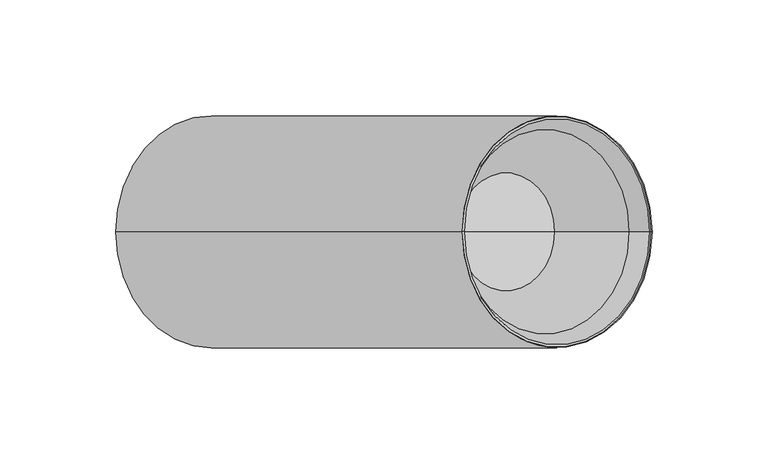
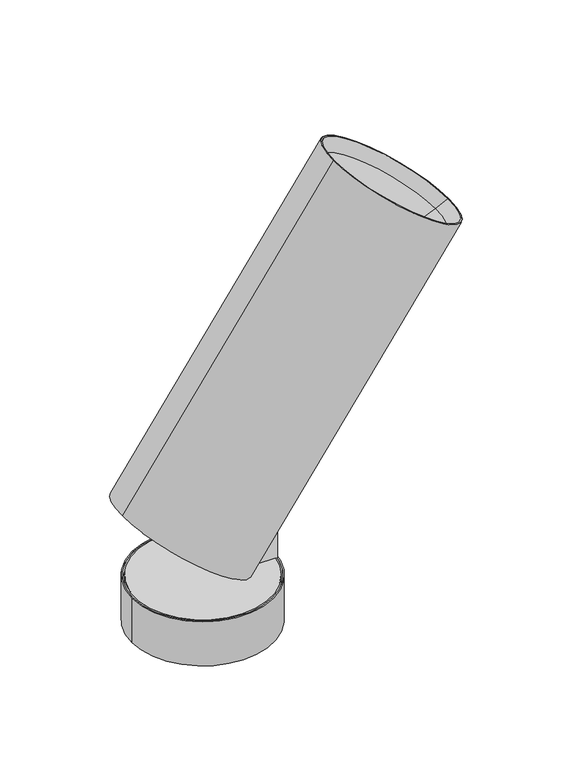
"""IFC4 building model written with IfcOpenShell, lengths in millimetres: light fixture geometry, PIPES C S : 1700 21W-830 28°."""

from ifc_helpers import new_model, si_unit, point, frame, frame_2d, origin, origin_with_axes, origin_2d, place, context, project, spatial, polyline, circle_curve, trimmed, segment, composite_curve, outline, extrude, source, transform, mapped, element, save
from ifc_brep_helpers import plane_surface, cylinder_surface, revolved_surface, advanced_brep


def light_fixture_41abf64e(model_context):
    return source(origin(), model_context, "Body", "SolidModel", [
        advanced_brep(
        [(38.1178204, 8.0, 92.7464369), (15.1747629, 8.0, 59.9803551), (29.3695524, 8.0, 50.0410565), (23.0602116, 8.0, 41.030384), (24.7208068, 8.0, 39.8676227), (53.973205, 8.0, 81.644377), (38.1178204, -8.0, 92.7464369), (53.973205, -8.0, 81.644377), (24.7208068, -8.0, 39.8676227), (23.0602116, -8.0, 41.030384), (29.3695524, -8.0, 50.0410565), (15.1747629, -8.0, 59.9803551), (15.1747629, 0.0, 59.9803551), (54.5008612, 0.0, 81.2749081), (92.463132, 0.0, 309.835329), (174.3783364, 0.0, 252.4776854), (164.8478284, 0.0, 247.8194807), (91.3454771, 0.0, 299.2863811), (-56.6667414, 0.0, 96.8557975), (-55.0284374, 0.0, 95.7086446), (-48.7190966, 0.0, 104.7193171), (-9.3997984, 0.0, 77.1876482), (89.6265474, 0.0, 263.8214878), (132.1096385, 0.0, 234.0745072), (110.8680929, 0.0, 248.9479975)],
        [
            (0, 1),
            (1, 2),
            (2, 3),
            (3, 4),
            (4, 5),
            (5, 0),
            (6, 7),
            (7, 8),
            (8, 9),
            (9, 10),
            (10, 11),
            (11, 6),
            (0, 6),
            (11, 12),
            (12, 1),
            (5, 13, circle_curve(frame((13.543259, 0.0, 109.9537299), z_axis=(-0.5735764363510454, 0.0, -0.8191520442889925), x_axis=(0.8191520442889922, 0.0, -0.5735764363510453)), 50.0)),
            (13, 7, circle_curve(frame((13.543259, 0.0, 109.9537299), z_axis=(-0.5735764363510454, 0.0, -0.8191520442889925), x_axis=(0.8191520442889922, 0.0, -0.5735764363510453)), 50.0)),
            (14, 15, circle_curve(frame((133.4207342, 0.0, 281.1565072), z_axis=(0.5735764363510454, 0.0, 0.8191520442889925), x_axis=(0.8191520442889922, 0.0, -0.5735764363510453)), 50.0)),
            (15, 16),
            (16, 17, circle_curve(frame((128.0966528, 0.0, 273.5529309), z_axis=(-0.5735764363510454, 0.0, -0.8191520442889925), x_axis=(0.8191520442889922, 0.0, -0.5735764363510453)), 44.8649013)),
            (17, 14),
            (15, 14, circle_curve(frame((133.4207342, 0.0, 281.1565072), z_axis=(0.5735764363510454, 0.0, 0.8191520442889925), x_axis=(0.8191520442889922, 0.0, -0.5735764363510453)), 50.0)),
            (17, 16, circle_curve(frame((128.0966528, 0.0, 273.5529309), z_axis=(-0.5735764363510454, 0.0, -0.8191520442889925), x_axis=(0.8191520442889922, 0.0, -0.5735764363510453)), 44.8649013)),
            (14, 18),
            (18, 8, circle_curve(frame((-15.7091392, 0.0, 68.1769757), z_axis=(0.5735764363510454, 0.0, 0.8191520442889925), x_axis=(0.8191520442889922, 0.0, -0.5735764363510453)), 50.0)),
            (13, 15),
            (4, 18, circle_curve(frame((-15.7091392, 0.0, 68.1769757), z_axis=(0.5735764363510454, 0.0, 0.8191520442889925), x_axis=(0.8191520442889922, 0.0, -0.5735764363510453)), 50.0)),
            (18, 19),
            (19, 9, circle_curve(frame((-15.7091392, 0.0, 68.1769757), z_axis=(0.5735764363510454, 0.0, 0.8191520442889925), x_axis=(0.8191520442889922, 0.0, -0.5735764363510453)), 48.0)),
            (3, 19, circle_curve(frame((-15.7091392, 0.0, 68.1769757), z_axis=(0.5735764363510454, 0.0, 0.8191520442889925), x_axis=(0.8191520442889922, 0.0, -0.5735764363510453)), 48.0)),
            (19, 20),
            (20, 10, circle_curve(frame((-9.3997984, 0.0, 77.1876482), z_axis=(0.5735764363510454, 0.0, 0.8191520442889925), x_axis=(0.8191520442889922, 0.0, -0.5735764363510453)), 48.0)),
            (2, 20, circle_curve(frame((-9.3997984, 0.0, 77.1876482), z_axis=(0.5735764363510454, 0.0, 0.8191520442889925), x_axis=(0.8191520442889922, 0.0, -0.5735764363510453)), 48.0)),
            (20, 21),
            (21, 12),
            (22, 23, circle_curve(frame((110.8680929, 0.0, 248.9479975), z_axis=(0.5735764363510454, 0.0, 0.8191520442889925), x_axis=(0.8191520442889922, 0.0, -0.5735764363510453)), 25.931139)),
            (23, 24),
            (24, 22),
            (23, 22, circle_curve(frame((110.8680929, 0.0, 248.9479975), z_axis=(0.5735764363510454, 0.0, 0.8191520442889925), x_axis=(0.8191520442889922, 0.0, -0.5735764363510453)), 25.931139)),
            (16, 23),
            (22, 17),
        ],
        [
            plane_surface(frame((38.1178204, 8.0, 92.7464369), z_axis=(0.0, -1.0000000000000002, 0.0), x_axis=(0.5735764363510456, 0.0, 0.8191520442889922))),
            plane_surface(frame((38.1178204, -8.0, 92.7464369), z_axis=(0.0, 1.0000000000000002, 0.0), x_axis=(-0.5735764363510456, 0.0, -0.8191520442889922))),
            plane_surface(frame((38.1178204, -8.0, 92.7464369), z_axis=(0.8191520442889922, 0.0, -0.5735764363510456), x_axis=(0.0, 1.0, 0.0))),
            plane_surface(frame((58.5966215, -8.0, 78.4070259), z_axis=(-0.573576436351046, 0.0, -0.8191520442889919), x_axis=(0.0, 1.0, 0.0))),
            revolved_surface(polyline([(164.8478284, 0.0, 247.8194807), (174.3783364, 0.0, 252.4776854)]), (-18.8364965, 0.0, 63.7106467), (-0.5735764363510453, 0.0, -0.8191520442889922)),
            cylinder_surface(frame((-18.8364965, 0.0, 63.7106467), z_axis=(-0.5735764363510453, 0.0, -0.8191520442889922), x_axis=(0.8191520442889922, 0.0, -0.5735764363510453)), 50.0),
            plane_surface(frame((-15.7091392, 0.0, 68.1769757), z_axis=(-0.5735764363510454, 0.0, -0.8191520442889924), x_axis=(0.8191520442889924, 0.0, -0.5735764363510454))),
            revolved_surface(polyline([(23.610158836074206, 0.0, 40.645306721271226), (29.91949968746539, 0.0, 49.65597928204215)]), (-18.8364965, 0.0, 63.7106467), (-0.5735764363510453, 0.0, -0.8191520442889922)),
            plane_surface(frame((-9.3997984, 0.0, 77.1876482), z_axis=(-0.5735764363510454, 0.0, -0.8191520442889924), x_axis=(0.8191520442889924, 0.0, -0.5735764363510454))),
            plane_surface(frame((110.8680929, 0.0, 248.9479975), z_axis=(0.5735764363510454, 0.0, 0.8191520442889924), x_axis=(0.8191520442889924, 0.0, -0.5735764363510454))),
            revolved_surface(polyline([(132.1096385, 0.0, 234.0745072), (164.8478284, 0.0, 247.8194807)]), (-18.8364965, 0.0, 63.7106467), (-0.5735764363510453, 0.0, -0.8191520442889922)),
        ],
        [
            (0, [[1, 2, 3, 4, 5, 6]]),
            (1, [[7, 8, 9, 10, 11, 12]]),
            (2, [[13, -12, 14, 15, -1]]),
            (3, [[-13, -6, 16, 17, -7]]),
            (4, [[18, 19, 20, 21]]),
            (4, [[-19, 22, -21, 23]]),
            (5, [[-18, 24, 25, -8, -17, 26]]),
            (5, [[-22, -26, -16, -5, 27, -24]]),
            (6, [[28, 29, -9, -25]]),
            (6, [[-28, -27, -4, 30]]),
            (7, [[31, 32, -10, -29]]),
            (7, [[-31, -30, -3, 33]]),
            (8, [[34, 35, -14, -11, -32]]),
            (8, [[-34, -33, -2, -15, -35]]),
            (9, [[36, 37, 38]]),
            (9, [[-37, 39, -38]]),
            (10, [[-20, 40, -36, 41]]),
            (10, [[-23, -41, -39, -40]]),
        ],
    ),
        advanced_brep(
        [(10.012575, 8.0, 52.6079867), (8.8654221, 8.0, 50.9696826), (21.3965718, 8.0, 42.1952771), (22.5437247, 8.0, 43.8335812), (8.8654221, -8.0, 50.9696826), (10.012575, -8.0, 52.6079867), (22.5437247, -8.0, 43.8335812), (21.3965718, -8.0, 42.1952771), (10.012575, 0.0, 52.6079867), (8.8654221, 0.0, 50.9696826), (-14.83696, 0.0, 70.0078184), (-52.7877207, 0.0, 96.5812271), (-53.9348736, 0.0, 94.942923), (-15.9841129, 0.0, 68.3695143)],
        [
            (0, 1),
            (1, 2),
            (2, 3),
            (3, 0),
            (4, 5),
            (5, 6),
            (6, 7),
            (7, 4),
            (0, 8),
            (8, 5),
            (4, 9),
            (9, 1),
            (10, 11),
            (11, 6, circle_curve(frame((-14.83696, 0.0, 70.0078184), z_axis=(0.5735764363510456, 0.0, 0.8191520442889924), x_axis=(0.8191520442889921, 0.0, -0.5735764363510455)), 46.3293243)),
            (8, 10),
            (3, 11, circle_curve(frame((-14.83696, 0.0, 70.0078184), z_axis=(0.5735764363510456, 0.0, 0.8191520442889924), x_axis=(0.8191520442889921, 0.0, -0.5735764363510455)), 46.3293243)),
            (11, 12),
            (12, 7, circle_curve(frame((-15.9841129, 0.0, 68.3695143), z_axis=(0.5735764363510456, 0.0, 0.8191520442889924), x_axis=(0.8191520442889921, 0.0, -0.5735764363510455)), 46.3293243)),
            (2, 12, circle_curve(frame((-15.9841129, 0.0, 68.3695143), z_axis=(0.5735764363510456, 0.0, 0.8191520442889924), x_axis=(0.8191520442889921, 0.0, -0.5735764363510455)), 46.3293243)),
            (12, 13),
            (13, 9),
        ],
        [
            plane_surface(frame((38.1178204, 8.0, 92.7464369), z_axis=(0.0, -1.0000000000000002, 0.0), x_axis=(0.5735764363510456, 0.0, 0.8191520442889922))),
            plane_surface(frame((38.1178204, -8.0, 92.7464369), z_axis=(0.0, 1.0000000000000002, 0.0), x_axis=(-0.5735764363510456, 0.0, -0.8191520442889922))),
            plane_surface(frame((38.1178204, -8.0, 92.7464369), z_axis=(0.8191520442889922, 0.0, -0.5735764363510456), x_axis=(0.0, 1.0, 0.0))),
            plane_surface(frame((-14.83696, 0.0, 70.0078184), z_axis=(0.5735764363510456, 0.0, 0.8191520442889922), x_axis=(0.8191520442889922, 0.0, -0.5735764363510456))),
            cylinder_surface(frame((-19.1114701, 0.0, 63.9031853), z_axis=(-0.5735764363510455, 0.0, -0.8191520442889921), x_axis=(0.8191520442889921, 0.0, -0.5735764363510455)), 46.3293243),
            plane_surface(frame((-15.9841129, 0.0, 68.3695143), z_axis=(-0.5735764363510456, 0.0, -0.8191520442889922), x_axis=(0.8191520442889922, 0.0, -0.5735764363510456))),
        ],
        [
            (0, [[1, 2, 3, 4]]),
            (1, [[5, 6, 7, 8]]),
            (2, [[-1, 9, 10, -5, 11, 12]]),
            (3, [[13, 14, -6, -10, 15]]),
            (3, [[-13, -15, -9, -4, 16]]),
            (4, [[17, 18, -7, -14]]),
            (4, [[-17, -16, -3, 19]]),
            (5, [[20, 21, -11, -8, -18]]),
            (5, [[-20, -19, -2, -12, -21]]),
        ],
    ),
        advanced_brep(
        [(92.463132, 0.0, 309.835329), (174.3783364, 0.0, 252.4776854), (173.442189, 0.0, 253.1331828), (93.3992794, 0.0, 309.1798315), (90.6520857, 0.0, 264.3241727), (132.2312531, 0.0, 235.2101263), (111.4416694, 0.0, 249.7671495), (92.3429215, 0.0, 299.2094326), (164.4343745, 0.0, 248.7304538), (91.3454771, 0.0, 299.2863811), (164.8478284, 0.0, 247.8194807), (89.6265474, 0.0, 263.8214878), (132.1096385, 0.0, 234.0745072), (110.8680929, 0.0, 248.9479975)],
        [
            (0, 1, circle_curve(frame((133.4207342, 0.0, 281.1565072), z_axis=(0.5735764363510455, 0.0, 0.8191520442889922), x_axis=(0.8191520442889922, 0.0, -0.5735764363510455)), 50.0)),
            (1, 2),
            (2, 3, circle_curve(frame((133.4207342, 0.0, 281.1565072), z_axis=(-0.5735764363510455, 0.0, -0.8191520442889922), x_axis=(0.8191520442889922, 0.0, -0.5735764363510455)), 48.857175)),
            (3, 0),
            (1, 0, circle_curve(frame((133.4207342, 0.0, 281.1565072), z_axis=(0.5735764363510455, 0.0, 0.8191520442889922), x_axis=(0.8191520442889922, 0.0, -0.5735764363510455)), 50.0)),
            (3, 2, circle_curve(frame((133.4207342, 0.0, 281.1565072), z_axis=(-0.5735764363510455, 0.0, -0.8191520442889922), x_axis=(0.8191520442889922, 0.0, -0.5735764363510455)), 48.857175)),
            (4, 5, circle_curve(frame((111.4416694, 0.0, 249.7671495), z_axis=(0.5735764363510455, 0.0, 0.8191520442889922), x_axis=(0.8191520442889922, 0.0, -0.5735764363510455)), 25.3793955)),
            (5, 6),
            (6, 4),
            (5, 4, circle_curve(frame((111.4416694, 0.0, 249.7671495), z_axis=(0.5735764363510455, 0.0, 0.8191520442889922), x_axis=(0.8191520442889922, 0.0, -0.5735764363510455)), 25.3793955)),
            (7, 8, circle_curve(frame((128.388648, 0.0, 273.9699432), z_axis=(0.5735764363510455, 0.0, 0.8191520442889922), x_axis=(0.8191520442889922, 0.0, -0.5735764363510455)), 44.0037069)),
            (8, 5),
            (4, 7),
            (8, 7, circle_curve(frame((128.388648, 0.0, 273.9699432), z_axis=(0.5735764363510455, 0.0, 0.8191520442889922), x_axis=(0.8191520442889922, 0.0, -0.5735764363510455)), 44.0037069)),
            (9, 10, circle_curve(frame((128.0966528, 0.0, 273.5529309), z_axis=(0.5735764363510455, 0.0, 0.8191520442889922), x_axis=(0.8191520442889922, 0.0, -0.5735764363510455)), 44.8649013)),
            (10, 1),
            (0, 9),
            (10, 9, circle_curve(frame((128.0966528, 0.0, 273.5529309), z_axis=(0.5735764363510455, 0.0, 0.8191520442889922), x_axis=(0.8191520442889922, 0.0, -0.5735764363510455)), 44.8649013)),
            (11, 12, circle_curve(frame((110.8680929, 0.0, 248.9479975), z_axis=(0.5735764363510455, 0.0, 0.8191520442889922), x_axis=(0.8191520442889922, 0.0, -0.5735764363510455)), 25.931139)),
            (12, 10),
            (9, 11),
            (12, 11, circle_curve(frame((110.8680929, 0.0, 248.9479975), z_axis=(0.5735764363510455, 0.0, 0.8191520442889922), x_axis=(0.8191520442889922, 0.0, -0.5735764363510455)), 25.931139)),
            (13, 12),
            (11, 13),
            (2, 8),
            (7, 3),
        ],
        [
            plane_surface(frame((133.4207342, 0.0, 281.1565072), z_axis=(0.5735764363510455, 0.0, 0.8191520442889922), x_axis=(0.8191520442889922, 0.0, -0.5735764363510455))),
            plane_surface(frame((111.4416694, 0.0, 249.7671495), z_axis=(0.5735764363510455, 0.0, 0.8191520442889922), x_axis=(0.8191520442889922, 0.0, -0.5735764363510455))),
            revolved_surface(polyline([(132.2312531, 0.0, 235.2101263), (164.4343745, 0.0, 248.7304538)]), (-19.3032986, 0.0, 63.0439842), (-0.5735764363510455, 0.0, -0.8191520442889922)),
            revolved_surface(polyline([(174.3783364, 0.0, 252.4776854), (164.8478284, 0.0, 247.8194807)]), (-19.3032986, 0.0, 63.0439842), (-0.5735764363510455, 0.0, -0.8191520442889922)),
            revolved_surface(polyline([(164.8478284, 0.0, 247.8194807), (132.1096385, 0.0, 234.0745072)]), (-19.3032986, 0.0, 63.0439842), (-0.5735764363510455, 0.0, -0.8191520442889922)),
            plane_surface(frame((110.8680929, 0.0, 248.9479975), z_axis=(-0.5735764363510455, 0.0, -0.8191520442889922), x_axis=(0.8191520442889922, 0.0, -0.5735764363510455))),
            revolved_surface(polyline([(164.4343745, 0.0, 248.7304538), (173.442189, 0.0, 253.1331828)]), (-19.3032986, 0.0, 63.0439842), (-0.5735764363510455, 0.0, -0.8191520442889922)),
        ],
        [
            (0, [[1, 2, 3, 4]]),
            (0, [[5, -4, 6, -2]]),
            (1, [[7, 8, 9]]),
            (1, [[10, -9, -8]]),
            (2, [[11, 12, -7, 13]]),
            (2, [[14, -13, -10, -12]]),
            (3, [[15, 16, -1, 17]]),
            (3, [[18, -17, -5, -16]]),
            (4, [[19, 20, -15, 21]]),
            (4, [[22, -21, -18, -20]]),
            (5, [[23, -19, 24]]),
            (5, [[-24, -22, -23]]),
            (6, [[-3, 25, -11, 26]]),
            (6, [[-6, -26, -14, -25]]),
        ],
    ),
        extrude(outline(composite_curve([segment(trimmed(circle_curve(origin_2d(), 48.0), [point((0.0, -48.0))], [point((0.0, 48.0))], False, "CARTESIAN"), True, "CONTINUOUS"), segment(trimmed(circle_curve(origin_2d(), 48.0), [point((0.0, 48.0))], [point((0.0, -48.0))], False, "CARTESIAN"), True, "CONTINUOUS")], self_intersect=False)), origin_with_axes(), (0.0, 0.0, 1.0), 33.0),
        extrude(outline(composite_curve([segment(polyline([(79.5474065, 30.0074467), (33.0, 30.0074467), (33.0, 49.0), (86.7928568, 49.0), (86.7928568, 46.5), (89.0, 46.5), (87.7157773, 37.3622808)]), True, "CONTINUOUS"), segment(trimmed(circle_curve(frame_2d((79.2490169, 38.5522063)), 8.5499681), [point((87.7157773, 37.3622808))], [point((79.5474065, 30.0074467))], False, "CARTESIAN"), True, "CONTINUOUS")], self_intersect=False)), frame((0.0, -7.0, 0.0), z_axis=(0.0, 1.0, 0.0), x_axis=(0.0, 0.0, 1.0)), (0.0, 0.0, 1.0), 14.0),
        extrude(outline(composite_curve([segment(trimmed(circle_curve(origin_2d(), 50.0), [point((-50.0, 0.0))], [point((50.0, 0.0))], False, "CARTESIAN"), True, "CONTINUOUS"), segment(trimmed(circle_curve(origin_2d(), 50.0), [point((50.0, 0.0))], [point((-50.0, 0.0))], False, "CARTESIAN"), True, "CONTINUOUS")], self_intersect=False), holes=[composite_curve([segment(trimmed(circle_curve(origin_2d(), 49.0), [point((-49.0, 0.0))], [point((49.0, 0.0))], True, "CARTESIAN"), True, "CONTINUOUS"), segment(trimmed(circle_curve(origin_2d(), 49.0), [point((49.0, 0.0))], [point((-49.0, 0.0))], True, "CARTESIAN"), True, "CONTINUOUS")], self_intersect=False)]), origin_with_axes(), (0.0, 0.0, 1.0), 33.0),
    ])


if __name__ == "__main__":
    model = new_model("IFC4")
    model_context = context("Model", 3, world=origin())
    ifc_project = project(units=[si_unit("LENGTHUNIT", "METRE", prefix="MILLI")], contexts=[model_context])
    site = spatial("IfcSite", under=ifc_project)
    building = spatial("IfcBuilding", under=site)
    placement = place(None, origin())
    light_fixture_shape = light_fixture_41abf64e(model_context)
    element("IfcLightFixture", 1, ObjectType="PIPES C S : 1700 21W-830 28°", at=placement, inside=building, context=model_context, shape_type="MappedRepresentation", body=[
        mapped(light_fixture_shape, transform((0.0, 0.0, 0.0), x_axis=(1.0, 0.0, 0.0), y_axis=(0.0, 1.0, 0.0), z_axis=(0.0, 0.0, 1.0))),
    ])
    save(model, "model.ifc")
